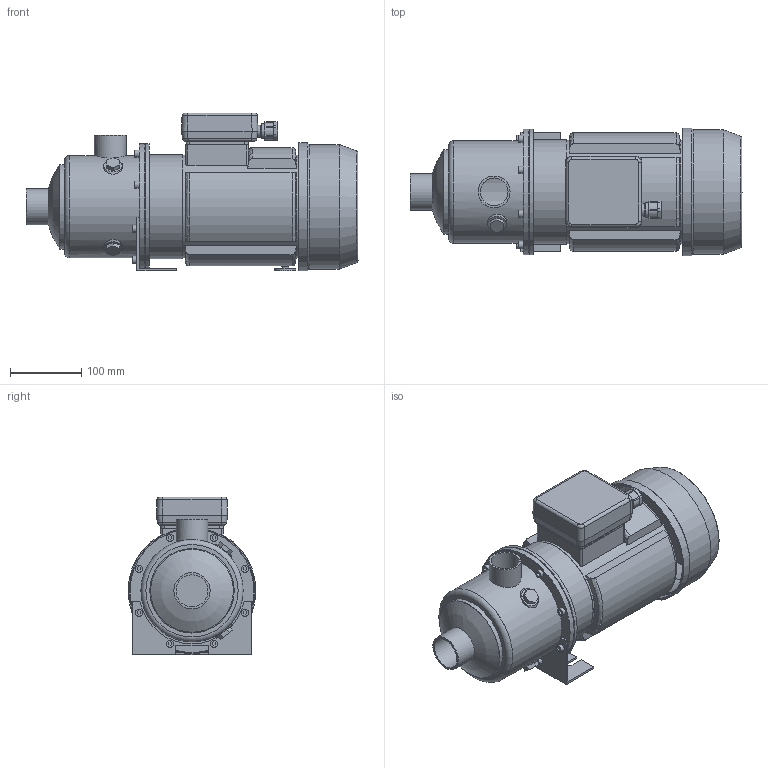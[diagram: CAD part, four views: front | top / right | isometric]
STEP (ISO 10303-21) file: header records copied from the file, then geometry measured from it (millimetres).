
FILE_DESCRIPTION(/* description */ ('Unknown'),/* implementation_level */ '2;1');
FILE_NAME(/* name */ 'MH 9 [3] T6 IE3',/* time_stamp */ '2026-07-10T15:16:34+02:00',/* author */ ('Unknown'),/* organization */ ('Unknown'),/* preprocessor_version */ 'ST-DEVELOPER v20',/* originating_system */ 'Solid Edge',/* authorisation */ 'Unknown');
FILE_SCHEMA (('AUTOMOTIVE_DESIGN {1 0 10303 214 3 1 1}'));
Length unit declared in the file: millimetre
Products named in the file (10): MH 9 [3] T6 IE3; Flangia motore Tonda M90; Corpo MH 9 [2-3]; Motore MEC 90 - T; carcassa MEC 90; Copriventola MEC 90; Ghiera PG13,5 cod. SAV.GHI.20; Basetta MEC 80-90-100 T; Piedino MEC 90 int.90; Staffa 3-5-9 int.90
Assembly tree (9 placements, depth 3):
  MH 9 [3] T6 IE3
    Flangia motore Tonda M90
    Corpo MH 9 [2-3]
    Motore MEC 90 - T
      carcassa MEC 90
      Copriventola MEC 90
      Ghiera PG13,5 cod. SAV.GHI.20
      Basetta MEC 80-90-100 T
    Piedino MEC 90 int.90
    Staffa 3-5-9 int.90
Bounding box: 465.6 x 179.1 x 221.5 mm (x, y, z)
Volume: 2898327.5 mm3; surface area: 630960.9 mm2
Topology: 8 solids, 8 shells, 321 faces, 765 edges, 506 vertices
Faces by surface type: plane 180, cylinder 100, cone 20, torus 11, bspline 8, sphere 2
Full cylindrical faces by diameter (mm): 7 x4, 10 x9, 13 x1, 17 x1, 19.73 x1, 20.4 x1, 21 x1, 30 x1, 38.952 x1, 44.5 x1, 44.845 x1, 50.8 x1, 116.1 x1, 118.5 x1, 135 x1, 140 x3, 141.1 x1, 143.5 x1, 145 x1, 146 x1, 169.5 x1, 173.5 x1, 174.1 x2, 174.5 x1, 176.5 x2, 179.1 x1
Entity records: 10583 total; most frequent: CARTESIAN_POINT 1970, DIRECTION 1507, ORIENTED_EDGE 1350, EDGE_CURVE 675, AXIS2_PLACEMENT_3D 561, VERTEX_POINT 477, EDGE_LOOP 438, FACE_BOUND 438
